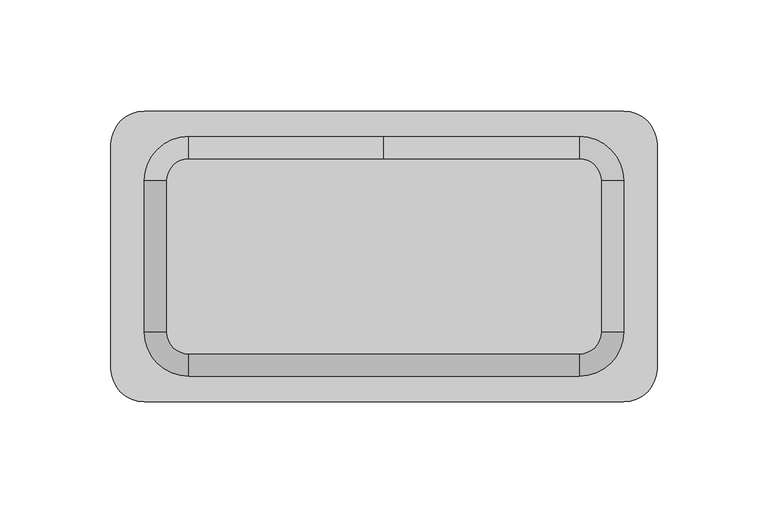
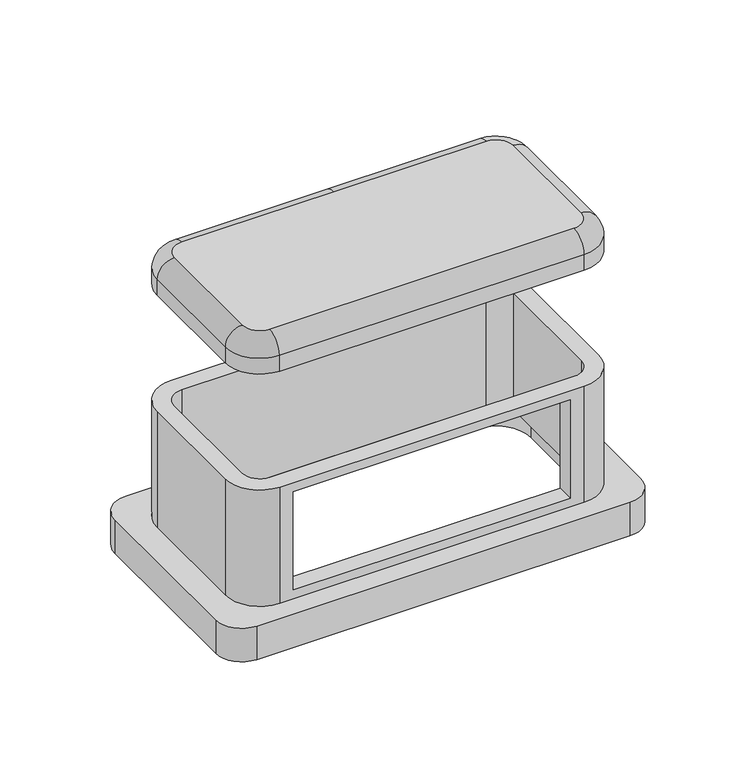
"""IFC4 building model written with IfcOpenShell, lengths in millimetres: proxy geometry, КНС_НапольнаяДвухсторонняяБашенкаBUS_ILF_DKC : Напольная двухсторонняя башенка BUS_ILF_DKC."""

from ifc_helpers import new_model, si_unit, point, frame, frame_2d, origin, origin_with_axes, place, context, project, spatial, polyline, circle_curve, ellipse_curve, trimmed, segment, composite_curve, outline, extrude, source, transform, mapped, element, save
from ifc_brep_helpers import plane_surface, cylinder_surface, revolved_surface, advanced_brep


def electrical_fixtures_1d311426(model_context):
    return source(origin(), model_context, "Body", "SolidModel", [
        advanced_brep(
        [(88.0, 54.0, 91.5), (-88.0, 54.0, 91.5), (-108.0, 34.0, 91.5), (-108.0, -34.0, 91.5), (-88.0, -54.0, 91.5), (88.0, -54.0, 91.5), (108.0, -34.0, 91.5), (108.0, 34.0, 91.5), (88.0, 44.0, 91.5), (98.0, 34.0, 91.5), (98.0, -34.0, 91.5), (88.0, -44.0, 91.5), (-88.0, -44.0, 91.5), (-98.0, -34.0, 91.5), (-98.0, 34.0, 91.5), (-88.0, 44.0, 91.5), (88.0, 54.0, 20.5), (108.0, 34.0, 20.5), (108.0, -34.0, 20.5), (88.0, -54.0, 20.5), (-88.0, -54.0, 20.5), (-108.0, -34.0, 20.5), (-108.0, 34.0, 20.5), (-88.0, 54.0, 20.5), (88.0, 44.0, 20.5), (-88.0, 44.0, 20.5), (-98.0, 34.0, 20.5), (-98.0, -34.0, 20.5), (-88.0, -44.0, 20.5), (88.0, -44.0, 20.5), (98.0, -34.0, 20.5), (98.0, 34.0, 20.5), (-80.0, -54.0, 86.0), (80.0, -54.0, 86.0), (80.0, -54.0, 26.0), (-80.0, -54.0, 26.0), (80.0, -44.0, 86.0), (-80.0, -44.0, 86.0), (-80.0, -44.0, 26.0), (80.0, -44.0, 26.0)],
        [
            (0, 1),
            (1, 2, circle_curve(frame((-88.0, 34.0, 91.5), z_axis=(0.0, 0.0, 1.0), x_axis=(1.0, 0.0, 0.0)), 20.0)),
            (2, 3),
            (3, 4, circle_curve(frame((-88.0, -34.0, 91.5), z_axis=(0.0, 0.0, 1.0), x_axis=(1.0, 0.0, 0.0)), 20.0)),
            (4, 5),
            (5, 6, circle_curve(frame((88.0, -34.0, 91.5), z_axis=(0.0, 0.0, 1.0), x_axis=(1.0, 0.0, 0.0)), 20.0)),
            (6, 7),
            (7, 0, circle_curve(frame((88.0, 34.0, 91.5), z_axis=(0.0, 0.0, 1.0), x_axis=(1.0, 0.0, 0.0)), 20.0)),
            (8, 9, circle_curve(frame((88.0, 34.0, 91.5), z_axis=(0.0, 0.0, -1.0), x_axis=(1.0, 0.0, 0.0)), 10.0)),
            (9, 10),
            (10, 11, circle_curve(frame((88.0, -34.0, 91.5), z_axis=(0.0, 0.0, -1.0), x_axis=(1.0, 0.0, 0.0)), 10.0)),
            (11, 12),
            (12, 13, circle_curve(frame((-88.0, -34.0, 91.5), z_axis=(0.0, 0.0, -1.0), x_axis=(1.0, 0.0, 0.0)), 10.0)),
            (13, 14),
            (14, 15, circle_curve(frame((-88.0, 34.0, 91.5), z_axis=(0.0, 0.0, -1.0), x_axis=(1.0, 0.0, 0.0)), 10.0)),
            (15, 8),
            (16, 17, circle_curve(frame((88.0, 34.0, 20.5), z_axis=(0.0, 0.0, -1.0), x_axis=(1.0, 0.0, 0.0)), 20.0)),
            (17, 18),
            (18, 19, circle_curve(frame((88.0, -34.0, 20.5), z_axis=(0.0, 0.0, -1.0), x_axis=(1.0, 0.0, 0.0)), 20.0)),
            (19, 20),
            (20, 21, circle_curve(frame((-88.0, -34.0, 20.5), z_axis=(0.0, 0.0, -1.0), x_axis=(1.0, 0.0, 0.0)), 20.0)),
            (21, 22),
            (22, 23, circle_curve(frame((-88.0, 34.0, 20.5), z_axis=(0.0, 0.0, -1.0), x_axis=(1.0, 0.0, 0.0)), 20.0)),
            (23, 16),
            (24, 25),
            (25, 26, circle_curve(frame((-88.0, 34.0, 20.5), z_axis=(0.0, 0.0, 1.0), x_axis=(1.0, 0.0, 0.0)), 10.0)),
            (26, 27),
            (27, 28, circle_curve(frame((-88.0, -34.0, 20.5), z_axis=(0.0, 0.0, 1.0), x_axis=(1.0, 0.0, 0.0)), 10.0)),
            (28, 29),
            (29, 30, circle_curve(frame((88.0, -34.0, 20.5), z_axis=(0.0, 0.0, 1.0), x_axis=(1.0, 0.0, 0.0)), 10.0)),
            (30, 31),
            (31, 24, circle_curve(frame((88.0, 34.0, 20.5), z_axis=(0.0, 0.0, 1.0), x_axis=(1.0, 0.0, 0.0)), 10.0)),
            (0, 16),
            (23, 1),
            (22, 2),
            (21, 3),
            (20, 4),
            (19, 5),
            (32, 33),
            (33, 34),
            (34, 35),
            (35, 32),
            (18, 6),
            (17, 7),
            (8, 24),
            (31, 9),
            (30, 10),
            (29, 11),
            (28, 12),
            (36, 37),
            (37, 38),
            (38, 39),
            (39, 36),
            (27, 13),
            (26, 14),
            (25, 15),
            (32, 37),
            (36, 33),
            (35, 38),
            (34, 39),
        ],
        [
            plane_surface(frame((-108.0, 54.0, 91.5), z_axis=(0.0, 0.0, 1.0), x_axis=(-1.0, 0.0, 0.0))),
            plane_surface(frame((-108.0, 54.0, 20.5), z_axis=(0.0, 0.0, -1.0), x_axis=(1.0, 0.0, 0.0))),
            plane_surface(frame((88.0, 54.0, 91.5), z_axis=(0.0, 1.0, 0.0), x_axis=(0.0, 0.0, -1.0))),
            cylinder_surface(frame((-88.0, 34.0, 20.5), z_axis=(0.0, 0.0, 1.0), x_axis=(1.0, 0.0, 0.0)), 20.0),
            plane_surface(frame((-108.0, 34.0, 91.5), z_axis=(-1.0, 0.0, 0.0), x_axis=(0.0, 0.0, -1.0))),
            cylinder_surface(frame((-88.0, -34.0, 20.5), z_axis=(0.0, 0.0, 1.0), x_axis=(1.0, 0.0, 0.0)), 20.0),
            plane_surface(frame((-88.0, -54.0, 91.5), z_axis=(0.0, -1.0, 0.0), x_axis=(0.0, 0.0, -1.0))),
            cylinder_surface(frame((88.0, -34.0, 20.5), z_axis=(0.0, 0.0, 1.0), x_axis=(1.0, 0.0, 0.0)), 20.0),
            plane_surface(frame((108.0, -34.0, 91.5), z_axis=(1.0, 0.0, 0.0), x_axis=(0.0, 0.0, -1.0))),
            cylinder_surface(frame((88.0, 34.0, 20.5), z_axis=(0.0, 0.0, 1.0), x_axis=(1.0, 0.0, 0.0)), 20.0),
            revolved_surface(polyline([(98.0, 34.0, 20.5), (98.0, 34.0, 91.5)]), (88.0, 34.0, 20.5), (0.0, 0.0, -1.0)),
            plane_surface(frame((98.0, 34.0, 91.5), z_axis=(-1.0, 0.0, 0.0), x_axis=(0.0, 0.0, -1.0))),
            revolved_surface(polyline([(98.0, -34.0, 20.5), (98.0, -34.0, 91.5)]), (88.0, -34.0, 20.5), (0.0, 0.0, -1.0)),
            plane_surface(frame((88.0, -44.0, 91.5), z_axis=(0.0, 1.0, 0.0), x_axis=(0.0, 0.0, -1.0))),
            revolved_surface(polyline([(-78.0, -34.0, 20.5), (-78.0, -34.0, 91.5)]), (-88.0, -34.0, 20.5), (0.0, 0.0, -1.0)),
            plane_surface(frame((-98.0, -34.0, 91.5), z_axis=(1.0, 0.0, 0.0), x_axis=(0.0, 0.0, -1.0))),
            revolved_surface(polyline([(-78.0, 34.0, 20.5), (-78.0, 34.0, 91.5)]), (-88.0, 34.0, 20.5), (0.0, 0.0, -1.0)),
            plane_surface(frame((-88.0, 44.0, 91.5), z_axis=(0.0, -1.0, 0.0), x_axis=(0.0, 0.0, -1.0))),
            plane_surface(frame((80.0, -54.0, 86.0), z_axis=(0.0, 0.0, -1.0), x_axis=(0.0, 1.0, 0.0))),
            plane_surface(frame((-80.0, -54.0, 86.0), z_axis=(1.0, 0.0, 0.0), x_axis=(0.0, 1.0, 0.0))),
            plane_surface(frame((-80.0, -54.0, 26.0), z_axis=(0.0, 0.0, 1.0), x_axis=(0.0, 1.0, 0.0))),
            plane_surface(frame((80.0, -54.0, 26.0), z_axis=(-1.0, 0.0, 0.0), x_axis=(0.0, 1.0, 0.0))),
        ],
        [
            (0, [[1, 2, 3, 4, 5, 6, 7, 8], [9, 10, 11, 12, 13, 14, 15, 16]]),
            (1, [[17, 18, 19, 20, 21, 22, 23, 24], [25, 26, 27, 28, 29, 30, 31, 32]]),
            (2, [[-1, 33, -24, 34]]),
            (3, [[-2, -34, -23, 35]]),
            (4, [[-3, -35, -22, 36]]),
            (5, [[-4, -36, -21, 37]]),
            (6, [[-5, -37, -20, 38], [39, 40, 41, 42]]),
            (7, [[-6, -38, -19, 43]]),
            (8, [[-7, -43, -18, 44]]),
            (9, [[-8, -44, -17, -33]]),
            (10, [[-9, 45, -32, 46]]),
            (11, [[-10, -46, -31, 47]]),
            (12, [[-11, -47, -30, 48]]),
            (13, [[-12, -48, -29, 49], [50, 51, 52, 53]]),
            (14, [[-13, -49, -28, 54]]),
            (15, [[-14, -54, -27, 55]]),
            (16, [[-15, -55, -26, 56]]),
            (17, [[-16, -56, -25, -45]]),
            (18, [[57, -50, 58, -39]]),
            (19, [[-57, -42, 59, -51]]),
            (20, [[-59, -41, 60, -52]]),
            (21, [[-58, -53, -60, -40]]),
        ],
    ),
        advanced_brep(
        [(-108.0, 34.0, 172.0), (-108.0, 34.0, 162.5), (-108.0, -34.0, 162.5), (-108.0, -34.0, 172.0), (-98.0, -34.0, 182.0), (-98.0, 34.0, 182.0), (-88.0, -54.0, 172.0), (-88.0, -54.0, 162.5), (88.0, -54.0, 162.5), (88.0, -54.0, 172.0), (88.0, -44.0, 182.0), (-88.0, -44.0, 182.0), (108.0, -34.0, 172.0), (108.0, -34.0, 162.5), (108.0, 34.0, 162.5), (108.0, 34.0, 172.0), (98.0, 34.0, 182.0), (98.0, -34.0, 182.0), (88.0, 54.0, 172.0), (88.0, 54.0, 162.5), (-88.0, 54.0, 162.5), (-88.0, 54.0, 172.0), (0.0, 54.0, 172.0), (0.0, 44.0, 182.0), (88.0, 44.0, 182.0), (-88.0, 44.0, 182.0)],
        [
            (0, 1),
            (1, 2),
            (2, 3),
            (3, 0),
            (3, 4, circle_curve(frame((-98.0, -34.0, 172.0), z_axis=(0.0, 1.0, 0.0), x_axis=(1.0, 0.0, 0.0)), 10.0)),
            (4, 5),
            (5, 0, circle_curve(frame((-98.0, 34.0, 172.0), z_axis=(0.0, -1.0, 0.0), x_axis=(1.0, 0.0, 0.0)), 10.0)),
            (6, 7),
            (7, 8),
            (8, 9),
            (9, 6),
            (9, 10, circle_curve(frame((88.0, -44.0, 172.0), z_axis=(-1.0, 0.0, 0.0), x_axis=(0.0, 1.0, 0.0)), 10.0)),
            (10, 11),
            (11, 6, circle_curve(frame((-88.0, -44.0, 172.0), z_axis=(1.0, 0.0, 0.0), x_axis=(0.0, 1.0, 0.0)), 10.0)),
            (12, 13),
            (13, 14),
            (14, 15),
            (15, 12),
            (15, 16, circle_curve(frame((98.0, 34.0, 172.0), z_axis=(0.0, -1.0, 0.0), x_axis=(-1.0, 0.0, 0.0)), 10.0)),
            (16, 17),
            (17, 12, circle_curve(frame((98.0, -34.0, 172.0), z_axis=(0.0, 1.0, 0.0), x_axis=(-1.0, 0.0, 0.0)), 10.0)),
            (18, 19),
            (19, 20),
            (20, 21),
            (21, 22),
            (22, 18),
            (22, 23, circle_curve(frame((0.0, 44.0, 172.0), z_axis=(1.0, 0.0, 0.0), x_axis=(0.0, -1.0, 0.0)), 10.0)),
            (23, 24),
            (24, 18, circle_curve(frame((88.0, 44.0, 172.0), z_axis=(-1.0, 0.0, 0.0), x_axis=(0.0, -1.0, 0.0)), 10.0)),
            (21, 25, circle_curve(frame((-88.0, 44.0, 172.0), z_axis=(1.0, 0.0, 0.0), x_axis=(0.0, -1.0, 0.0)), 10.0)),
            (25, 23),
            (0, 21, circle_curve(frame((-88.0, 34.0, 172.0), z_axis=(0.0, 0.0, -1.0), x_axis=(0.0, 1.0, 0.0)), 20.0)),
            (20, 1, circle_curve(frame((-88.0, 34.0, 162.5), z_axis=(0.0, 0.0, 1.0), x_axis=(0.0, 1.0, 0.0)), 20.0)),
            (5, 25, circle_curve(frame((-88.0, 34.0, 182.0), z_axis=(0.0, 0.0, -1.0), x_axis=(0.0, 1.0, 0.0)), 10.0)),
            (2, 7, circle_curve(frame((-88.0, -34.0, 162.5), z_axis=(0.0, 0.0, 1.0), x_axis=(-1.0, 0.0, 0.0)), 20.0)),
            (6, 3, circle_curve(frame((-88.0, -34.0, 172.0), z_axis=(0.0, 0.0, -1.0), x_axis=(-1.0, 0.0, 0.0)), 20.0)),
            (11, 4, circle_curve(frame((-88.0, -34.0, 182.0), z_axis=(0.0, 0.0, -1.0), x_axis=(-1.0, 0.0, 0.0)), 10.0)),
            (8, 13, circle_curve(frame((88.0, -34.0, 162.5), z_axis=(0.0, 0.0, 1.0), x_axis=(0.0, -1.0, 0.0)), 20.0)),
            (12, 9, circle_curve(frame((88.0, -34.0, 172.0), z_axis=(0.0, 0.0, -1.0), x_axis=(0.0, -1.0, 0.0)), 20.0)),
            (17, 10, circle_curve(frame((88.0, -34.0, 182.0), z_axis=(0.0, 0.0, -1.0), x_axis=(0.0, -1.0, 0.0)), 10.0)),
            (14, 19, circle_curve(frame((88.0, 34.0, 162.5), z_axis=(0.0, 0.0, 1.0), x_axis=(1.0, 0.0, 0.0)), 20.0)),
            (18, 15, circle_curve(frame((88.0, 34.0, 172.0), z_axis=(0.0, 0.0, -1.0), x_axis=(1.0, 0.0, 0.0)), 20.0)),
            (24, 16, circle_curve(frame((88.0, 34.0, 182.0), z_axis=(0.0, 0.0, -1.0), x_axis=(1.0, 0.0, 0.0)), 10.0)),
        ],
        [
            plane_surface(frame((-108.0, 34.0, 162.5), z_axis=(-1.0, 0.0, 0.0), x_axis=(0.0, -1.0, 0.0))),
            cylinder_surface(frame((-98.0, 34.0, 172.0), z_axis=(0.0, 1.0, 0.0), x_axis=(1.0, 0.0, 0.0)), 10.0),
            plane_surface(frame((-88.0, -54.0, 162.5), z_axis=(0.0, -1.0, 0.0), x_axis=(1.0, 0.0, 0.0))),
            cylinder_surface(frame((-88.0, -44.0, 172.0), z_axis=(-1.0, 0.0, 0.0), x_axis=(0.0, 1.0, 0.0)), 10.0),
            plane_surface(frame((108.0, -34.0, 162.5), z_axis=(1.0, 0.0, 0.0), x_axis=(0.0, 1.0, 0.0))),
            cylinder_surface(frame((98.0, -34.0, 172.0), z_axis=(0.0, -1.0, 0.0), x_axis=(-1.0, 0.0, 0.0)), 10.0),
            plane_surface(frame((88.0, 54.0, 162.5), z_axis=(0.0, 1.0, 0.0), x_axis=(-1.0, 0.0, 0.0))),
            cylinder_surface(frame((88.0, 44.0, 172.0), z_axis=(1.0, 0.0, 0.0), x_axis=(0.0, -1.0, 0.0)), 10.0),
            cylinder_surface(frame((0.0, 44.0, 172.0), z_axis=(1.0, 0.0, 0.0), x_axis=(0.0, -1.0, 0.0)), 10.0),
            cylinder_surface(frame((-88.0, 34.0, 0.0), z_axis=(0.0, 0.0, 1.0), x_axis=(0.0, 1.0, 0.0)), 20.0),
            revolved_surface(trimmed(ellipse_curve(frame((-88.0, 44.0, 172.0), z_axis=(1.0, 0.0, 0.0), x_axis=(0.0, -1.0, 0.0)), 10.0, 10.0), [point((-88.0, 54.0, 172.0))], [point((-88.0, 44.0, 182.0))], True, "CARTESIAN"), (-88.0, 34.0, 0.0), (0.0, 0.0, 1.0)),
            cylinder_surface(frame((-88.0, -34.0, 0.0), z_axis=(0.0, 0.0, 1.0), x_axis=(-1.0, 0.0, 0.0)), 20.0),
            revolved_surface(trimmed(ellipse_curve(frame((-98.0, -34.0, 172.0), z_axis=(0.0, 1.0, 0.0), x_axis=(1.0, 0.0, 0.0)), 10.0, 10.0), [point((-108.0, -34.0, 172.0))], [point((-98.0, -34.0, 182.0))], True, "CARTESIAN"), (-88.0, -34.0, 0.0), (0.0, 0.0, 1.0)),
            cylinder_surface(frame((88.0, -34.0, 0.0), z_axis=(0.0, 0.0, 1.0), x_axis=(0.0, -1.0, 0.0)), 20.0),
            revolved_surface(trimmed(ellipse_curve(frame((88.0, -44.0, 172.0), z_axis=(-1.0, 0.0, 0.0), x_axis=(0.0, 1.0, 0.0)), 10.0, 10.0), [point((88.0, -54.0, 172.0))], [point((88.0, -44.0, 182.0))], True, "CARTESIAN"), (88.0, -34.0, 0.0), (0.0, 0.0, 1.0)),
            cylinder_surface(frame((88.0, 34.0, 0.0), z_axis=(0.0, 0.0, 1.0), x_axis=(1.0, 0.0, 0.0)), 20.0),
            revolved_surface(trimmed(ellipse_curve(frame((98.0, 34.0, 172.0), z_axis=(0.0, -1.0, 0.0), x_axis=(-1.0, 0.0, 0.0)), 10.0, 10.0), [point((108.0, 34.0, 172.0))], [point((98.0, 34.0, 182.0))], True, "CARTESIAN"), (88.0, 34.0, 0.0), (0.0, 0.0, 1.0)),
            plane_surface(frame((88.0, 34.0, 162.5), z_axis=(0.0, 0.0, -1.0), x_axis=(1.0, 0.0, 0.0))),
            plane_surface(frame((-78.0, 34.0, 182.0), z_axis=(0.0, 0.0, 1.0), x_axis=(0.0, 1.0, 0.0))),
        ],
        [
            (0, [[1, 2, 3, 4]]),
            (1, [[-4, 5, 6, 7]]),
            (2, [[8, 9, 10, 11]]),
            (3, [[-11, 12, 13, 14]]),
            (4, [[15, 16, 17, 18]]),
            (5, [[-18, 19, 20, 21]]),
            (6, [[22, 23, 24, 25, 26]]),
            (7, [[-26, 27, 28, 29]]),
            (8, [[-25, 30, 31, -27]]),
            (9, [[-1, 32, -24, 33]]),
            (10, [[-7, 34, -30, -32]]),
            (11, [[-3, 35, -8, 36]]),
            (12, [[-5, -36, -14, 37]]),
            (13, [[-10, 38, -15, 39]]),
            (14, [[-12, -39, -21, 40]]),
            (15, [[-17, 41, -22, 42]]),
            (16, [[-19, -42, -29, 43]]),
            (17, [[-2, -33, -23, -41, -16, -38, -9, -35]]),
            (18, [[-6, -37, -13, -40, -20, -43, -28, -31, -34]]),
        ],
    ),
        extrude(outline(composite_curve([segment(trimmed(circle_curve(frame_2d((108.0, 50.5)), 15.0), [point((108.0, 65.5))], [point((123.0, 50.5))], False, "CARTESIAN"), True, "CONTINUOUS"), segment(polyline([(123.0, 50.5), (123.0, -50.5)]), True, "CONTINUOUS"), segment(trimmed(circle_curve(frame_2d((108.0, -50.5)), 15.0), [point((123.0, -50.5))], [point((108.0, -65.5))], False, "CARTESIAN"), True, "CONTINUOUS"), segment(polyline([(108.0, -65.5), (-108.0, -65.5)]), True, "CONTINUOUS"), segment(trimmed(circle_curve(frame_2d((-108.0, -50.5)), 15.0), [point((-108.0, -65.5))], [point((-123.0, -50.5))], False, "CARTESIAN"), True, "CONTINUOUS"), segment(polyline([(-123.0, -50.5), (-123.0, 50.5)]), True, "CONTINUOUS"), segment(trimmed(circle_curve(frame_2d((-108.0, 50.5)), 15.0), [point((-123.0, 50.5))], [point((-108.0, 65.5))], False, "CARTESIAN"), True, "CONTINUOUS"), segment(polyline([(-108.0, 65.5), (108.0, 65.5)]), True, "CONTINUOUS")], self_intersect=False), holes=[composite_curve([segment(polyline([(88.0, 54.0), (-88.0, 54.0)]), True, "CONTINUOUS"), segment(trimmed(circle_curve(frame_2d((-88.0, 34.0)), 20.0), [point((-88.0, 54.0))], [point((-108.0, 34.0))], True, "CARTESIAN"), True, "CONTINUOUS"), segment(polyline([(-108.0, 34.0), (-108.0, -34.0)]), True, "CONTINUOUS"), segment(trimmed(circle_curve(frame_2d((-88.0, -34.0)), 20.0), [point((-108.0, -34.0))], [point((-88.0, -54.0))], True, "CARTESIAN"), True, "CONTINUOUS"), segment(polyline([(-88.0, -54.0), (88.0, -54.0)]), True, "CONTINUOUS"), segment(trimmed(circle_curve(frame_2d((88.0, -34.0)), 20.0), [point((88.0, -54.0))], [point((108.0, -34.0))], True, "CARTESIAN"), True, "CONTINUOUS"), segment(polyline([(108.0, -34.0), (108.0, 34.0)]), True, "CONTINUOUS"), segment(trimmed(circle_curve(frame_2d((88.0, 34.0)), 20.0), [point((108.0, 34.0))], [point((88.0, 54.0))], True, "CARTESIAN"), True, "CONTINUOUS")], self_intersect=False)]), origin_with_axes(), (0.0, 0.0, 1.0), 20.5),
    ])


if __name__ == "__main__":
    model = new_model("IFC4")
    model_context = context("Model", 3, world=origin())
    ifc_project = project(units=[si_unit("LENGTHUNIT", "METRE", prefix="MILLI")], contexts=[model_context])
    site = spatial("IfcSite", under=ifc_project)
    building = spatial("IfcBuilding", under=site)
    placement = place(None, origin())
    electrical_fixtures_shape = electrical_fixtures_1d311426(model_context)
    element("IfcBuildingElementProxy", 1, Name="КНС_НапольнаяДвухсторонняяБашенкаBUS_ILF_DKC : Напольная двухсторонняя башенка BUS_ILF_DKC", ObjectType="КНС_НапольнаяДвухсторонняяБашенкаBUS_ILF_DKC : Напольная двухсторонняя башенка BUS_ILF_DKC", at=placement, inside=building, context=model_context, shape_type="MappedRepresentation", body=[
        mapped(electrical_fixtures_shape, transform((0.0, 0.0, 0.0), x_axis=(1.0, 0.0, 0.0), y_axis=(0.0, 1.0, 0.0), z_axis=(0.0, 0.0, 1.0))),
    ])
    save(model, "model.ifc")
